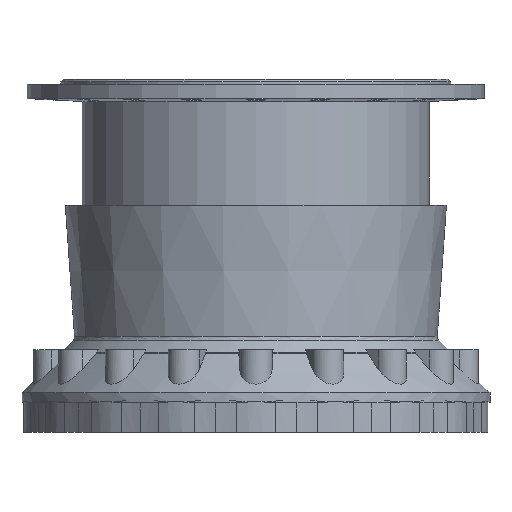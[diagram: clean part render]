
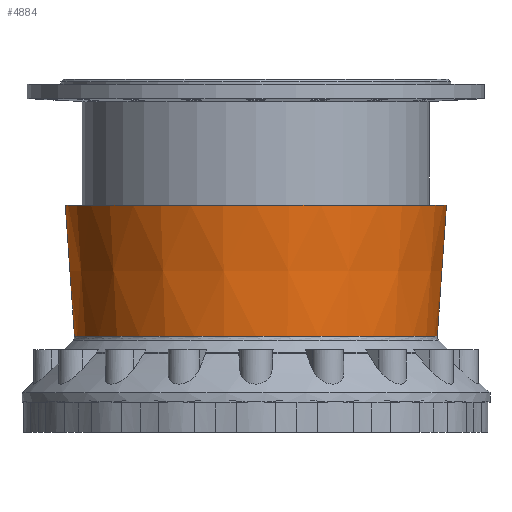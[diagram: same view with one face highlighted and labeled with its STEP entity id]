
A CAD part, front view. The second image highlights one B-rep face of the part: STEP entity #4884.
In plain terms, the highlighted conical face has half-angle 4 degrees and reference radius 348.118 mm.
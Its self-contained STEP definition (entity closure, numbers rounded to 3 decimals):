
#2056 = CARTESIAN_POINT ( 'NONE',  ( 0., 0., 84.5 ) ) ;
#2057 = DIRECTION ( 'NONE',  ( 0., 0., 1. ) ) ;
#2058 = DIRECTION ( 'NONE',  ( 1., 0., 0. ) ) ;
#2231 = CARTESIAN_POINT ( 'NONE',  ( 0., 0., -158.962 ) ) ;
#2232 = DIRECTION ( 'NONE',  ( 0., 0., 1. ) ) ;
#2233 = DIRECTION ( 'NONE',  ( 1., 0., 0. ) ) ;
#3149 = AXIS2_PLACEMENT_3D ( 'NONE', #13090, #13091, #13093 ) ;
#3238 = AXIS2_PLACEMENT_3D ( 'NONE', #2056, #2057, #2058 ) ;
#3265 = AXIS2_PLACEMENT_3D ( 'NONE', #2231, #2232, #2233 ) ;
#3655 = FACE_OUTER_BOUND ( 'NONE', #14059, .T. ) ;
#3668 = FACE_BOUND ( 'NONE', #14052, .T. ) ;
#3678 = CONICAL_SURFACE ( 'NONE', #3149, 348.118, 0.07 ) ;
#3840 = CIRCLE ( 'NONE', #3238, 354.027 ) ;
#3907 = CIRCLE ( 'NONE', #3265, 337.003 ) ;
#4884 = ADVANCED_FACE ( 'NONE', ( #3668, #3655 ), #3678, .T. ) ;
#4993 = ORIENTED_EDGE ( 'NONE', *, *, #7073, .T. ) ;
#4994 = ORIENTED_EDGE ( 'NONE', *, *, #7021, .F. ) ;
#7021 = EDGE_CURVE ( 'NONE', #9313, #9313, #3840, .T. ) ;
#7073 = EDGE_CURVE ( 'NONE', #9326, #9326, #3907, .T. ) ;
#9313 = VERTEX_POINT ( 'NONE', #12162 ) ;
#9326 = VERTEX_POINT ( 'NONE', #12175 ) ;
#12162 = CARTESIAN_POINT ( 'NONE',  ( 354.027, 0., 84.5 ) ) ;
#12175 = CARTESIAN_POINT ( 'NONE',  ( 337.003, 0., -158.962 ) ) ;
#13090 = CARTESIAN_POINT ( 'NONE',  ( 0., 0., 0. ) ) ;
#13091 = DIRECTION ( 'NONE',  ( 0., 0., 1. ) ) ;
#13093 = DIRECTION ( 'NONE',  ( 1., 0., 0. ) ) ;
#14052 = EDGE_LOOP ( 'NONE', ( #4993 ) ) ;
#14059 = EDGE_LOOP ( 'NONE', ( #4994 ) ) ;
